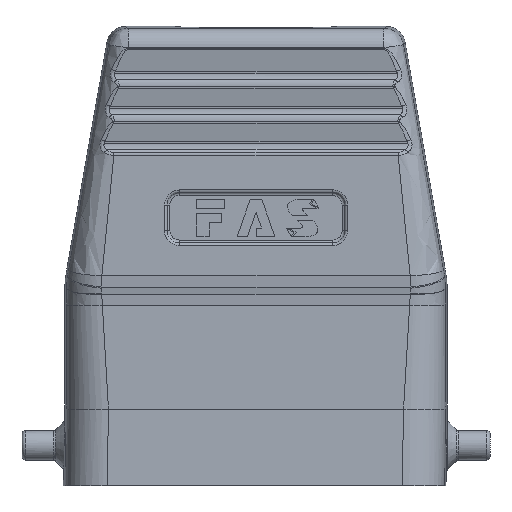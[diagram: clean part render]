
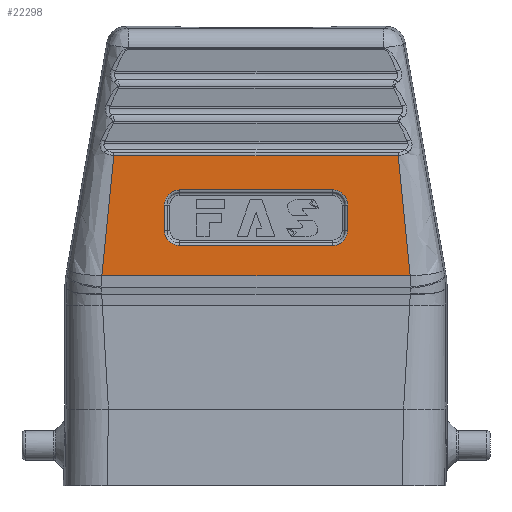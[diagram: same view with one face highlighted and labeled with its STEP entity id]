
A CAD part, front view. The second image highlights one B-rep face of the part: STEP entity #22298.
In plain terms, the highlighted planar face has unit normal (0, -1, 0).
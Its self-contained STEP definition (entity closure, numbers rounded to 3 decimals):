
#48 = CARTESIAN_POINT ( 'NONE',  ( -23.748, -22., 27.183 ) ) ;
#80 = ORIENTED_EDGE ( 'NONE', *, *, #5050, .F. ) ;
#399 = CARTESIAN_POINT ( 'NONE',  ( -30., -22., 25.634 ) ) ;
#456 = CARTESIAN_POINT ( 'NONE',  ( -12., -22., 34.366 ) ) ;
#554 = LINE ( 'NONE', #5898, #23685 ) ;
#1331 = ORIENTED_EDGE ( 'NONE', *, *, #22505, .F. ) ;
#2409 = CARTESIAN_POINT ( 'NONE',  ( -14.366, -22., 32. ) ) ;
#2417 = EDGE_CURVE ( 'NONE', #22435, #5524, #554, .T. ) ;
#3028 = CARTESIAN_POINT ( 'NONE',  ( -14.366, -22., 28. ) ) ;
#3044 = VECTOR ( 'NONE', #4855, 1000. ) ;
#3613 = CARTESIAN_POINT ( 'NONE',  ( -30., -22., 0. ) ) ;
#3621 = VECTOR ( 'NONE', #18181, 1000. ) ;
#3797 = CARTESIAN_POINT ( 'NONE',  ( -22.292, -22., 39.758 ) ) ;
#4214 = CARTESIAN_POINT ( 'NONE',  ( 14.366, -22., 33.386 ) ) ;
#4533 = CARTESIAN_POINT ( 'NONE',  ( 22.292, -22., 39.758 ) ) ;
#4855 = DIRECTION ( 'NONE',  ( 0., 0., -1. ) ) ;
#5014 = ORIENTED_EDGE ( 'NONE', *, *, #11266, .F. ) ;
#5028 = VECTOR ( 'NONE', #10192, 1000. ) ;
#5050 = EDGE_CURVE ( 'NONE', #18869, #22435, #19483, .T. ) ;
#5365 = VERTEX_POINT ( 'NONE', #3028 ) ;
#5524 = VERTEX_POINT ( 'NONE', #14837 ) ;
#5527 = DIRECTION ( 'NONE',  ( 0., 0., 1. ) ) ;
#5898 = CARTESIAN_POINT ( 'NONE',  ( 14.366, -22., 0. ) ) ;
#6216 = VERTEX_POINT ( 'NONE', #16445 ) ;
#6780 = CARTESIAN_POINT ( 'NONE',  ( 12., -22., 34.366 ) ) ;
#7241 = ORIENTED_EDGE ( 'NONE', *, *, #18477, .F. ) ;
#7456 = LINE ( 'NONE', #12703, #3621 ) ;
#7504 = LINE ( 'NONE', #399, #23605 ) ;
#7619 = ORIENTED_EDGE ( 'NONE', *, *, #17059, .F. ) ;
#7691 = VERTEX_POINT ( 'NONE', #11961 ) ;
#7857 = CARTESIAN_POINT ( 'NONE',  ( 24.172, -22., 20.875 ) ) ;
#8413 = CARTESIAN_POINT ( 'NONE',  ( -12., -22., 25.634 ) ) ;
#8805 = EDGE_LOOP ( 'NONE', ( #13512, #19275, #7619, #1331, #17758, #21626, #80, #15867 ) ) ;
#9066 = EDGE_CURVE ( 'NONE', #5524, #13925, #17050, .T. ) ;
#9283 =( BOUNDED_CURVE ( )  B_SPLINE_CURVE ( 3, ( #456, #13861, #11918, #2409 ),
 .UNSPECIFIED., .F., .F. ) 
 B_SPLINE_CURVE_WITH_KNOTS ( ( 4, 4 ),
 ( 0., 1. ),
 .UNSPECIFIED. ) 
 CURVE ( )  GEOMETRIC_REPRESENTATION_ITEM ( )  RATIONAL_B_SPLINE_CURVE ( ( 1., 0.805, 0.805, 1. ) ) 
 REPRESENTATION_ITEM ( '' )  );
#9554 = EDGE_CURVE ( 'NONE', #19448, #23221, #21122, .T. ) ;
#9976 = CARTESIAN_POINT ( 'NONE',  ( 14.366, -22., 32. ) ) ;
#10041 = LINE ( 'NONE', #23424, #5028 ) ;
#10192 = DIRECTION ( 'NONE',  ( -1., 0., 0. ) ) ;
#10472 = CARTESIAN_POINT ( 'NONE',  ( -14.366, -22., 26.614 ) ) ;
#10768 = CARTESIAN_POINT ( 'NONE',  ( 24.172, -22., 20.875 ) ) ;
#10917 = CARTESIAN_POINT ( 'NONE',  ( 23.748, -22., 27.182 ) ) ;
#11266 = EDGE_CURVE ( 'NONE', #23221, #7691, #18330, .T. ) ;
#11918 = CARTESIAN_POINT ( 'NONE',  ( -14.366, -22., 33.386 ) ) ;
#11961 = CARTESIAN_POINT ( 'NONE',  ( 22.292, -22., 39.758 ) ) ;
#12252 = CARTESIAN_POINT ( 'NONE',  ( 13.386, -22., 25.634 ) ) ;
#12406 = CARTESIAN_POINT ( 'NONE',  ( 14.366, -22., 26.614 ) ) ;
#12571 = VERTEX_POINT ( 'NONE', #7857 ) ;
#12703 = CARTESIAN_POINT ( 'NONE',  ( -270.598, -22., 20.875 ) ) ;
#12704 = CARTESIAN_POINT ( 'NONE',  ( 24.01, -22., 24.029 ) ) ;
#12891 = CARTESIAN_POINT ( 'NONE',  ( -24.172, -22., 20.875 ) ) ;
#12941 = PLANE ( 'NONE',  #20553 ) ;
#13481 = DIRECTION ( 'NONE',  ( 1., 0., 0. ) ) ;
#13512 = ORIENTED_EDGE ( 'NONE', *, *, #23890, .F. ) ;
#13861 = CARTESIAN_POINT ( 'NONE',  ( -13.386, -22., 34.366 ) ) ;
#13925 = VERTEX_POINT ( 'NONE', #19532 ) ;
#14034 = CARTESIAN_POINT ( 'NONE',  ( 13.386, -22., 34.366 ) ) ;
#14082 = VERTEX_POINT ( 'NONE', #8413 ) ;
#14571 = CARTESIAN_POINT ( 'NONE',  ( -30., -22., 39.758 ) ) ;
#14575 = EDGE_LOOP ( 'NONE', ( #7241, #15817, #5014, #17872 ) ) ;
#14837 = CARTESIAN_POINT ( 'NONE',  ( 14.366, -22., 32. ) ) ;
#15817 = ORIENTED_EDGE ( 'NONE', *, *, #17214, .F. ) ;
#15850 = FACE_BOUND ( 'NONE', #8805, .T. ) ;
#15867 = ORIENTED_EDGE ( 'NONE', *, *, #16676, .F. ) ;
#16088 = CARTESIAN_POINT ( 'NONE',  ( 12., -22., 25.634 ) ) ;
#16277 = CARTESIAN_POINT ( 'NONE',  ( -12., -22., 34.366 ) ) ;
#16302 =( BOUNDED_CURVE ( )  B_SPLINE_CURVE ( 3, ( #23687, #10472, #21902, #23769 ),
 .UNSPECIFIED., .F., .F. ) 
 B_SPLINE_CURVE_WITH_KNOTS ( ( 4, 4 ),
 ( 0., 1. ),
 .UNSPECIFIED. ) 
 CURVE ( )  GEOMETRIC_REPRESENTATION_ITEM ( )  RATIONAL_B_SPLINE_CURVE ( ( 1., 0.805, 0.805, 1. ) ) 
 REPRESENTATION_ITEM ( '' )  );
#16445 = CARTESIAN_POINT ( 'NONE',  ( -14.366, -22., 32. ) ) ;
#16676 = EDGE_CURVE ( 'NONE', #14082, #18869, #7504, .T. ) ;
#16726 = DIRECTION ( 'NONE',  ( 0., 1., 0. ) ) ;
#17050 =( BOUNDED_CURVE ( )  B_SPLINE_CURVE ( 3, ( #9976, #4214, #14034, #6780 ),
 .UNSPECIFIED., .F., .F. ) 
 B_SPLINE_CURVE_WITH_KNOTS ( ( 4, 4 ),
 ( 0., 1. ),
 .UNSPECIFIED. ) 
 CURVE ( )  GEOMETRIC_REPRESENTATION_ITEM ( )  RATIONAL_B_SPLINE_CURVE ( ( 1., 0.805, 0.805, 1. ) ) 
 REPRESENTATION_ITEM ( '' )  );
#17059 = EDGE_CURVE ( 'NONE', #17957, #6216, #9283, .T. ) ;
#17214 = EDGE_CURVE ( 'NONE', #7691, #12571, #22804, .T. ) ;
#17697 = CARTESIAN_POINT ( 'NONE',  ( -14.366, -22., 0. ) ) ;
#17758 = ORIENTED_EDGE ( 'NONE', *, *, #9066, .F. ) ;
#17872 = ORIENTED_EDGE ( 'NONE', *, *, #9554, .F. ) ;
#17957 = VERTEX_POINT ( 'NONE', #16277 ) ;
#17965 = CARTESIAN_POINT ( 'NONE',  ( 14.366, -22., 28. ) ) ;
#18181 = DIRECTION ( 'NONE',  ( -1., 0., 0. ) ) ;
#18186 = FACE_OUTER_BOUND ( 'NONE', #14575, .T. ) ;
#18225 = CARTESIAN_POINT ( 'NONE',  ( 12., -22., 25.634 ) ) ;
#18330 = LINE ( 'NONE', #14571, #20134 ) ;
#18374 = CARTESIAN_POINT ( 'NONE',  ( -23.096, -22., 33.477 ) ) ;
#18477 = EDGE_CURVE ( 'NONE', #12571, #19448, #7456, .T. ) ;
#18869 = VERTEX_POINT ( 'NONE', #18225 ) ;
#19275 = ORIENTED_EDGE ( 'NONE', *, *, #20350, .F. ) ;
#19448 = VERTEX_POINT ( 'NONE', #23411 ) ;
#19483 =( BOUNDED_CURVE ( )  B_SPLINE_CURVE ( 3, ( #16088, #12252, #12406, #17965 ),
 .UNSPECIFIED., .F., .F. ) 
 B_SPLINE_CURVE_WITH_KNOTS ( ( 4, 4 ),
 ( 0., 1. ),
 .UNSPECIFIED. ) 
 CURVE ( )  GEOMETRIC_REPRESENTATION_ITEM ( )  RATIONAL_B_SPLINE_CURVE ( ( 1., 0.805, 0.805, 1. ) ) 
 REPRESENTATION_ITEM ( '' )  );
#19532 = CARTESIAN_POINT ( 'NONE',  ( 12., -22., 34.366 ) ) ;
#19712 = CARTESIAN_POINT ( 'NONE',  ( 22.708, -22., 36.619 ) ) ;
#20134 = VECTOR ( 'NONE', #20335, 1000. ) ;
#20335 = DIRECTION ( 'NONE',  ( 1., 0., 0. ) ) ;
#20350 = EDGE_CURVE ( 'NONE', #6216, #5365, #22078, .T. ) ;
#20553 = AXIS2_PLACEMENT_3D ( 'NONE', #3613, #16726, #5527 ) ;
#21122 = B_SPLINE_CURVE_WITH_KNOTS ( 'NONE', 3,
 ( #12891, #22479, #48, #18374, #22154, #3797 ),
 .UNSPECIFIED., .F., .F.,
 ( 4, 2, 4 ),
 ( 0., 0.5, 1. ),
 .UNSPECIFIED. ) ;
#21241 = CARTESIAN_POINT ( 'NONE',  ( 14.366, -22., 28. ) ) ;
#21626 = ORIENTED_EDGE ( 'NONE', *, *, #2417, .F. ) ;
#21902 = CARTESIAN_POINT ( 'NONE',  ( -13.386, -22., 25.634 ) ) ;
#22078 = LINE ( 'NONE', #17697, #3044 ) ;
#22154 = CARTESIAN_POINT ( 'NONE',  ( -22.707, -22., 36.619 ) ) ;
#22298 = ADVANCED_FACE ( 'NONE', ( #15850, #18186 ), #12941, .F. ) ;
#22435 = VERTEX_POINT ( 'NONE', #21241 ) ;
#22479 = CARTESIAN_POINT ( 'NONE',  ( -24.009, -22., 24.029 ) ) ;
#22505 = EDGE_CURVE ( 'NONE', #13925, #17957, #10041, .T. ) ;
#22804 = B_SPLINE_CURVE_WITH_KNOTS ( 'NONE', 3,
 ( #4533, #19712, #23759, #10917, #12704, #10768 ),
 .UNSPECIFIED., .F., .F.,
 ( 4, 2, 4 ),
 ( 0., 0.5, 1. ),
 .UNSPECIFIED. ) ;
#23159 = CARTESIAN_POINT ( 'NONE',  ( -22.292, -22., 39.758 ) ) ;
#23221 = VERTEX_POINT ( 'NONE', #23159 ) ;
#23411 = CARTESIAN_POINT ( 'NONE',  ( -24.172, -22., 20.875 ) ) ;
#23424 = CARTESIAN_POINT ( 'NONE',  ( -30., -22., 34.366 ) ) ;
#23605 = VECTOR ( 'NONE', #13481, 1000. ) ;
#23685 = VECTOR ( 'NONE', #24122, 1000. ) ;
#23687 = CARTESIAN_POINT ( 'NONE',  ( -14.366, -22., 28. ) ) ;
#23759 = CARTESIAN_POINT ( 'NONE',  ( 23.097, -22., 33.477 ) ) ;
#23769 = CARTESIAN_POINT ( 'NONE',  ( -12., -22., 25.634 ) ) ;
#23890 = EDGE_CURVE ( 'NONE', #5365, #14082, #16302, .T. ) ;
#24122 = DIRECTION ( 'NONE',  ( 0., 0., 1. ) ) ;
